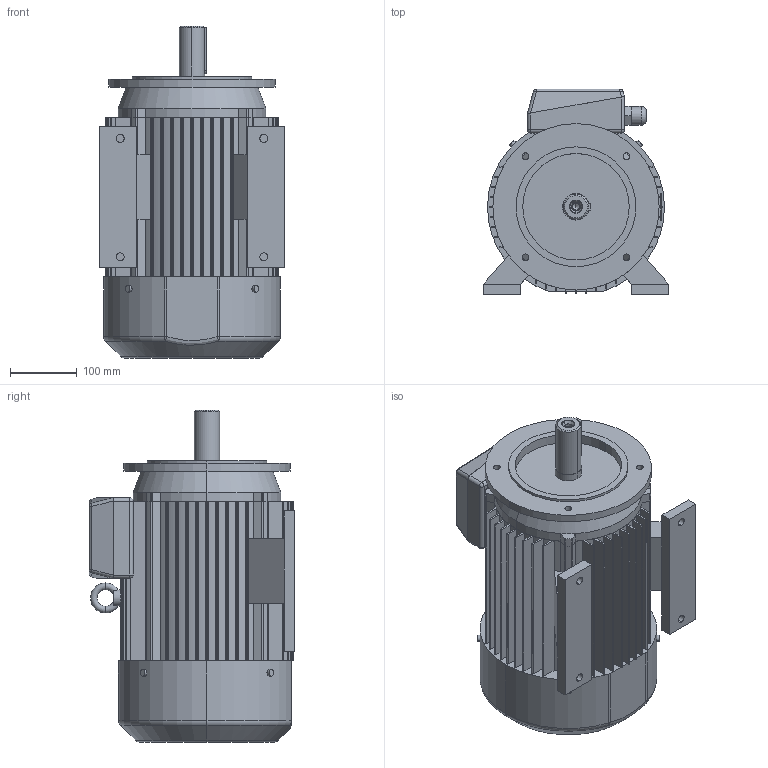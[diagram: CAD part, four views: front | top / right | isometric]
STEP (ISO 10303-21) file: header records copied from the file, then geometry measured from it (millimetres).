
FILE_DESCRIPTION (( 'STEP AP203' ), '1' );
FILE_NAME ('SLg 132M-B34-C1.STEP', '2010-04-14T10:49:37', ( 'INDUKTA' ), ( 'CANTONI MOTOR' ), 'SwSTEP 2.0', 'SolidWorks 2003064', '' );
FILE_SCHEMA (( 'CONFIG_CONTROL_DESIGN' ));
Length unit declared in the file: millimetre
Products named in the file (1): SLg 132M-B34-C1
Bounding box: 278 x 309 x 499 mm (x, y, z)
Volume: 20478742.1 mm3; surface area: 1116658.6 mm2
Topology: 14 solids, 14 shells, 529 faces, 1404 edges, 899 vertices
Faces by surface type: plane 253, cylinder 196, bspline 43, cone 14, torus 13, sphere 10
Entity records: 20034 total; most frequent: CARTESIAN_POINT 6873, ORIENTED_EDGE 2784, DIRECTION 2670, EDGE_CURVE 1392, AXIS2_PLACEMENT_3D 912, VERTEX_POINT 899, LINE 846, VECTOR 846
